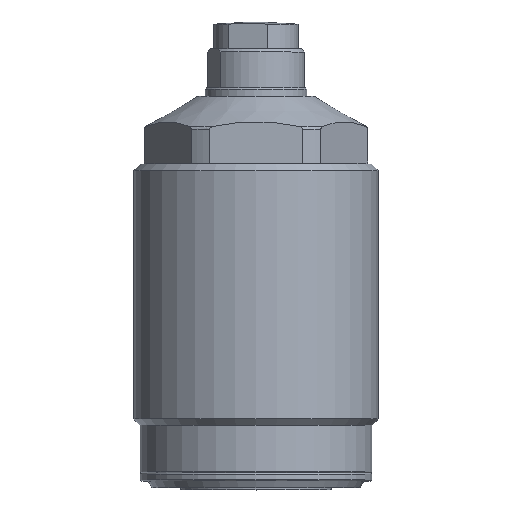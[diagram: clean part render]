
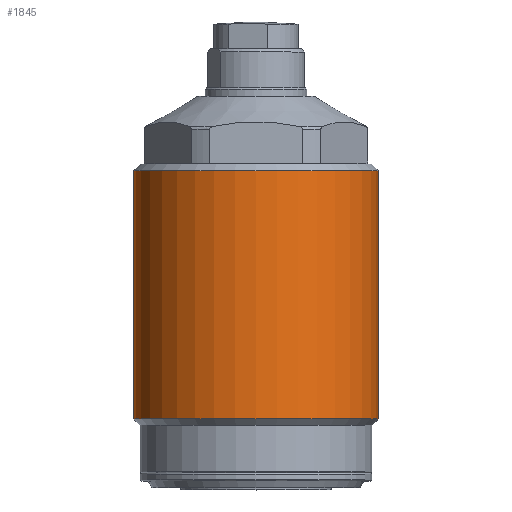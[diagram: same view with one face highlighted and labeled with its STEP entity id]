
A CAD part, top view. The second image highlights one B-rep face of the part: STEP entity #1845.
In plain terms, the highlighted cylindrical face has radius 18 mm (diameter 36 mm), a full revolution.
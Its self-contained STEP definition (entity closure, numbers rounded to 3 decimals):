
#1817=CYLINDRICAL_SURFACE('',#5708,18.);
#1845=ADVANCED_FACE('',(#2227,#2228),#1817,.T.);
#2227=FACE_BOUND('',#2322,.T.);
#2228=FACE_BOUND('',#2323,.T.);
#2322=EDGE_LOOP('',(#2703));
#2323=EDGE_LOOP('',(#2704));
#2622=CIRCLE('',#5705,18.);
#2623=CIRCLE('',#5707,18.);
#2703=ORIENTED_EDGE('',*,*,#4306,.F.);
#2704=ORIENTED_EDGE('',*,*,#4307,.T.);
#3896=VERTEX_POINT('',#6920);
#3897=VERTEX_POINT('',#6923);
#4306=EDGE_CURVE('',#3896,#3896,#2622,.T.);
#4307=EDGE_CURVE('',#3897,#3897,#2623,.T.);
#5705=AXIS2_PLACEMENT_3D('',#6919,#5978,#5979);
#5707=AXIS2_PLACEMENT_3D('',#6922,#5982,#5983);
#5708=AXIS2_PLACEMENT_3D('',#6924,#5984,#5985);
#5978=DIRECTION('',(0.,-1.,0.));
#5979=DIRECTION('',(0.,0.,-1.));
#5982=DIRECTION('',(0.,-1.,0.));
#5983=DIRECTION('',(0.,0.,-1.));
#5984=DIRECTION('',(0.,-1.,0.));
#5985=DIRECTION('',(0.,0.,-1.));
#6919=CARTESIAN_POINT('',(-7.619,10.45,0.));
#6920=CARTESIAN_POINT('',(-7.619,10.45,-18.));
#6922=CARTESIAN_POINT('',(-7.619,47.,0.));
#6923=CARTESIAN_POINT('',(-7.619,47.,-18.));
#6924=CARTESIAN_POINT('',(-7.619,-4.215,0.));
